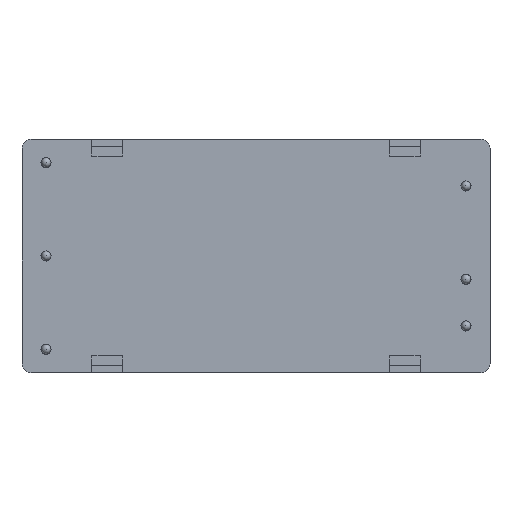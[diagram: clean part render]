
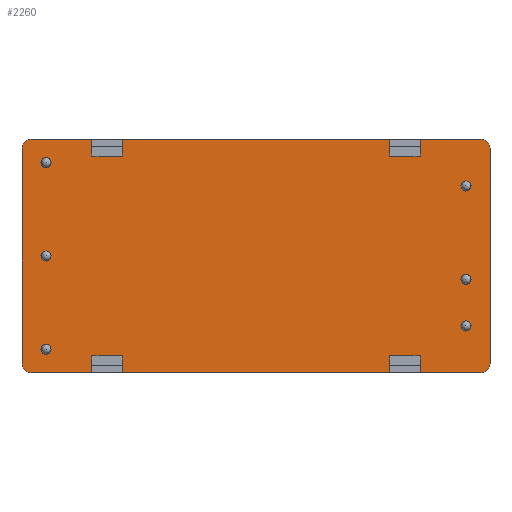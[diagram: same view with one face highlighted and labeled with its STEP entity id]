
A CAD part, top view. The second image highlights one B-rep face of the part: STEP entity #2260.
In plain terms, the highlighted planar face has unit normal (0, 0, 1).
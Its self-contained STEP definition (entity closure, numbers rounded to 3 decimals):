
#104=FACE_BOUND('',#481,.T.);
#105=FACE_BOUND('',#482,.T.);
#106=FACE_BOUND('',#483,.T.);
#107=FACE_BOUND('',#484,.T.);
#108=FACE_BOUND('',#485,.T.);
#109=FACE_BOUND('',#486,.T.);
#167=CIRCLE('',#2379,0.55);
#169=CIRCLE('',#2382,0.55);
#171=CIRCLE('',#2385,0.55);
#173=CIRCLE('',#2388,0.55);
#175=CIRCLE('',#2391,0.55);
#177=CIRCLE('',#2394,0.55);
#194=CIRCLE('',#2431,1.025);
#195=CIRCLE('',#2433,1.025);
#196=CIRCLE('',#2436,1.025);
#197=CIRCLE('',#2438,1.025);
#334=FACE_OUTER_BOUND('',#480,.T.);
#480=EDGE_LOOP('',(#1878,#1879,#1880,#1881,#1882,#1883,#1884,#1885,#1886,
#1887,#1888,#1889,#1890,#1891,#1892,#1893,#1894,#1895,#1896,#1897,#1898,
#1899,#1900,#1901));
#481=EDGE_LOOP('',(#1902));
#482=EDGE_LOOP('',(#1903));
#483=EDGE_LOOP('',(#1904));
#484=EDGE_LOOP('',(#1905));
#485=EDGE_LOOP('',(#1906));
#486=EDGE_LOOP('',(#1907));
#602=LINE('',#3364,#834);
#605=LINE('',#3369,#837);
#610=LINE('',#3378,#842);
#618=LINE('',#3396,#850);
#621=LINE('',#3401,#853);
#626=LINE('',#3410,#858);
#634=LINE('',#3427,#866);
#638=LINE('',#3435,#870);
#641=LINE('',#3440,#873);
#650=LINE('',#3459,#882);
#655=LINE('',#3469,#887);
#659=LINE('',#3475,#891);
#662=LINE('',#3481,#894);
#663=LINE('',#3484,#895);
#667=LINE('',#3490,#899);
#670=LINE('',#3496,#902);
#671=LINE('',#3499,#903);
#675=LINE('',#3505,#907);
#710=LINE('',#3651,#942);
#714=LINE('',#3662,#946);
#834=VECTOR('',#2653,3.3);
#837=VECTOR('',#2658,1.85);
#842=VECTOR('',#2665,1.85);
#850=VECTOR('',#2677,3.3);
#853=VECTOR('',#2682,1.85);
#858=VECTOR('',#2689,1.85);
#866=VECTOR('',#2701,1.85);
#870=VECTOR('',#2707,3.3);
#873=VECTOR('',#2712,1.85);
#882=VECTOR('',#2725,1.85);
#887=VECTOR('',#2732,1.85);
#891=VECTOR('',#2738,3.3);
#894=VECTOR('',#2743,6.59);
#895=VECTOR('',#2746,6.59);
#899=VECTOR('',#2752,29.12);
#902=VECTOR('',#2757,6.59);
#903=VECTOR('',#2760,6.59);
#907=VECTOR('',#2766,29.12);
#942=VECTOR('',#2931,23.4);
#946=VECTOR('',#2945,23.4);
#1050=VERTEX_POINT('',#3361);
#1051=VERTEX_POINT('',#3363);
#1052=VERTEX_POINT('',#3368);
#1055=VERTEX_POINT('',#3376);
#1062=VERTEX_POINT('',#3393);
#1063=VERTEX_POINT('',#3395);
#1064=VERTEX_POINT('',#3400);
#1067=VERTEX_POINT('',#3408);
#1073=VERTEX_POINT('',#3424);
#1074=VERTEX_POINT('',#3426);
#1077=VERTEX_POINT('',#3434);
#1078=VERTEX_POINT('',#3439);
#1085=VERTEX_POINT('',#3456);
#1086=VERTEX_POINT('',#3458);
#1089=VERTEX_POINT('',#3466);
#1090=VERTEX_POINT('',#3468);
#1093=VERTEX_POINT('',#3479);
#1094=VERTEX_POINT('',#3483);
#1097=VERTEX_POINT('',#3494);
#1098=VERTEX_POINT('',#3498);
#1113=VERTEX_POINT('',#3543);
#1115=VERTEX_POINT('',#3548);
#1117=VERTEX_POINT('',#3553);
#1119=VERTEX_POINT('',#3558);
#1121=VERTEX_POINT('',#3563);
#1123=VERTEX_POINT('',#3568);
#1144=VERTEX_POINT('',#3649);
#1145=VERTEX_POINT('',#3650);
#1146=VERTEX_POINT('',#3657);
#1147=VERTEX_POINT('',#3661);
#1262=EDGE_CURVE('',#1051,#1050,#602,.T.);
#1265=EDGE_CURVE('',#1052,#1051,#605,.T.);
#1270=EDGE_CURVE('',#1050,#1055,#610,.T.);
#1278=EDGE_CURVE('',#1063,#1062,#618,.T.);
#1281=EDGE_CURVE('',#1064,#1063,#621,.T.);
#1286=EDGE_CURVE('',#1062,#1067,#626,.T.);
#1294=EDGE_CURVE('',#1074,#1073,#634,.T.);
#1298=EDGE_CURVE('',#1077,#1074,#638,.T.);
#1301=EDGE_CURVE('',#1078,#1077,#641,.T.);
#1310=EDGE_CURVE('',#1086,#1085,#650,.T.);
#1315=EDGE_CURVE('',#1090,#1089,#655,.T.);
#1319=EDGE_CURVE('',#1085,#1090,#659,.T.);
#1322=EDGE_CURVE('',#1093,#1067,#662,.T.);
#1323=EDGE_CURVE('',#1052,#1094,#663,.T.);
#1327=EDGE_CURVE('',#1064,#1055,#667,.T.);
#1330=EDGE_CURVE('',#1097,#1089,#670,.T.);
#1331=EDGE_CURVE('',#1078,#1098,#671,.T.);
#1335=EDGE_CURVE('',#1086,#1073,#675,.T.);
#1355=EDGE_CURVE('',#1113,#1113,#167,.T.);
#1357=EDGE_CURVE('',#1115,#1115,#169,.T.);
#1359=EDGE_CURVE('',#1117,#1117,#171,.T.);
#1361=EDGE_CURVE('',#1119,#1119,#173,.T.);
#1363=EDGE_CURVE('',#1121,#1121,#175,.T.);
#1365=EDGE_CURVE('',#1123,#1123,#177,.T.);
#1406=EDGE_CURVE('',#1144,#1145,#710,.T.);
#1409=EDGE_CURVE('',#1145,#1093,#194,.T.);
#1410=EDGE_CURVE('',#1094,#1146,#195,.T.);
#1412=EDGE_CURVE('',#1146,#1147,#714,.T.);
#1414=EDGE_CURVE('',#1147,#1097,#196,.T.);
#1415=EDGE_CURVE('',#1098,#1144,#197,.T.);
#1878=ORIENTED_EDGE('',*,*,#1270,.T.);
#1879=ORIENTED_EDGE('',*,*,#1327,.F.);
#1880=ORIENTED_EDGE('',*,*,#1281,.T.);
#1881=ORIENTED_EDGE('',*,*,#1278,.T.);
#1882=ORIENTED_EDGE('',*,*,#1286,.T.);
#1883=ORIENTED_EDGE('',*,*,#1322,.F.);
#1884=ORIENTED_EDGE('',*,*,#1409,.F.);
#1885=ORIENTED_EDGE('',*,*,#1406,.F.);
#1886=ORIENTED_EDGE('',*,*,#1415,.F.);
#1887=ORIENTED_EDGE('',*,*,#1331,.F.);
#1888=ORIENTED_EDGE('',*,*,#1301,.T.);
#1889=ORIENTED_EDGE('',*,*,#1298,.T.);
#1890=ORIENTED_EDGE('',*,*,#1294,.T.);
#1891=ORIENTED_EDGE('',*,*,#1335,.F.);
#1892=ORIENTED_EDGE('',*,*,#1310,.T.);
#1893=ORIENTED_EDGE('',*,*,#1319,.T.);
#1894=ORIENTED_EDGE('',*,*,#1315,.T.);
#1895=ORIENTED_EDGE('',*,*,#1330,.F.);
#1896=ORIENTED_EDGE('',*,*,#1414,.F.);
#1897=ORIENTED_EDGE('',*,*,#1412,.F.);
#1898=ORIENTED_EDGE('',*,*,#1410,.F.);
#1899=ORIENTED_EDGE('',*,*,#1323,.F.);
#1900=ORIENTED_EDGE('',*,*,#1265,.T.);
#1901=ORIENTED_EDGE('',*,*,#1262,.T.);
#1902=ORIENTED_EDGE('',*,*,#1355,.T.);
#1903=ORIENTED_EDGE('',*,*,#1357,.T.);
#1904=ORIENTED_EDGE('',*,*,#1359,.T.);
#1905=ORIENTED_EDGE('',*,*,#1361,.T.);
#1906=ORIENTED_EDGE('',*,*,#1363,.T.);
#1907=ORIENTED_EDGE('',*,*,#1365,.T.);
#2162=PLANE('',#2439);
#2260=ADVANCED_FACE('',(#334,#104,#105,#106,#107,#108,#109),#2162,.T.);
#2379=AXIS2_PLACEMENT_3D('',#3544,#2805,#2806);
#2382=AXIS2_PLACEMENT_3D('',#3549,#2811,#2812);
#2385=AXIS2_PLACEMENT_3D('',#3554,#2817,#2818);
#2388=AXIS2_PLACEMENT_3D('',#3559,#2823,#2824);
#2391=AXIS2_PLACEMENT_3D('',#3564,#2829,#2830);
#2394=AXIS2_PLACEMENT_3D('',#3569,#2835,#2836);
#2431=AXIS2_PLACEMENT_3D('',#3655,#2936,#2937);
#2433=AXIS2_PLACEMENT_3D('',#3658,#2940,#2941);
#2436=AXIS2_PLACEMENT_3D('',#3665,#2949,#2950);
#2438=AXIS2_PLACEMENT_3D('',#3667,#2953,#2954);
#2439=AXIS2_PLACEMENT_3D('',#3668,#2955,#2956);
#2653=DIRECTION('',(1.,0.,0.));
#2658=DIRECTION('',(0.,1.,0.));
#2665=DIRECTION('',(0.,-1.,0.));
#2677=DIRECTION('',(1.,0.,0.));
#2682=DIRECTION('',(0.,1.,0.));
#2689=DIRECTION('',(0.,-1.,0.));
#2701=DIRECTION('',(0.,1.,0.));
#2707=DIRECTION('',(-1.,0.,0.));
#2712=DIRECTION('',(0.,-1.,0.));
#2725=DIRECTION('',(0.,-1.,0.));
#2732=DIRECTION('',(0.,1.,0.));
#2738=DIRECTION('',(-1.,0.,0.));
#2743=DIRECTION('',(-1.,0.,0.));
#2746=DIRECTION('',(-1.,0.,0.));
#2752=DIRECTION('',(-1.,0.,0.));
#2757=DIRECTION('',(1.,0.,0.));
#2760=DIRECTION('',(1.,0.,0.));
#2766=DIRECTION('',(1.,0.,0.));
#2805=DIRECTION('center_axis',(0.,0.,
-1.));
#2806=DIRECTION('ref_axis',(-1.,0.,0.));
#2811=DIRECTION('center_axis',(0.,0.,
-1.));
#2812=DIRECTION('ref_axis',(-1.,0.,0.));
#2817=DIRECTION('center_axis',(0.,0.,
-1.));
#2818=DIRECTION('ref_axis',(-1.,0.,0.));
#2823=DIRECTION('center_axis',(0.,0.,
-1.));
#2824=DIRECTION('ref_axis',(-1.,0.,0.));
#2829=DIRECTION('center_axis',(0.,0.,
-1.));
#2830=DIRECTION('ref_axis',(-1.,0.,0.));
#2835=DIRECTION('center_axis',(0.,0.,
-1.));
#2836=DIRECTION('ref_axis',(-1.,0.,0.));
#2931=DIRECTION('',(0.,-1.,0.));
#2936=DIRECTION('center_axis',(0.,0.,-1.));
#2937=DIRECTION('ref_axis',(0.,1.,0.));
#2940=DIRECTION('center_axis',(0.,0.,-1.));
#2941=DIRECTION('ref_axis',(1.,0.,0.));
#2945=DIRECTION('',(0.,1.,0.));
#2949=DIRECTION('center_axis',(0.,0.,-1.));
#2950=DIRECTION('ref_axis',(0.,-1.,0.));
#2953=DIRECTION('center_axis',(0.,0.,-1.));
#2954=DIRECTION('ref_axis',(-1.,0.,0.));
#2955=DIRECTION('center_axis',(0.,0.,
1.));
#2956=DIRECTION('ref_axis',(1.,0.,0.));
#3361=CARTESIAN_POINT('',(-14.56,-10.875,11.));
#3363=CARTESIAN_POINT('',(-17.86,-10.875,11.));
#3364=CARTESIAN_POINT('',(-7.28,-10.875,11.));
#3368=CARTESIAN_POINT('',(-17.86,-12.725,11.));
#3369=CARTESIAN_POINT('',(-17.86,-5.438,11.));
#3376=CARTESIAN_POINT('',(-14.56,-12.725,11.));
#3378=CARTESIAN_POINT('',(-14.56,-6.362,11.));
#3393=CARTESIAN_POINT('',(17.86,-10.875,11.));
#3395=CARTESIAN_POINT('',(14.56,-10.875,11.));
#3396=CARTESIAN_POINT('',(8.93,-10.875,11.));
#3400=CARTESIAN_POINT('',(14.56,-12.725,11.));
#3401=CARTESIAN_POINT('',(14.56,-5.437,11.));
#3408=CARTESIAN_POINT('',(17.86,-12.725,11.));
#3410=CARTESIAN_POINT('',(17.86,-6.363,11.));
#3424=CARTESIAN_POINT('',(14.56,12.725,11.));
#3426=CARTESIAN_POINT('',(14.56,10.875,11.));
#3427=CARTESIAN_POINT('',(14.56,6.362,11.));
#3434=CARTESIAN_POINT('',(17.86,10.875,11.));
#3435=CARTESIAN_POINT('',(7.28,10.875,11.));
#3439=CARTESIAN_POINT('',(17.86,12.725,11.));
#3440=CARTESIAN_POINT('',(17.86,5.438,11.));
#3456=CARTESIAN_POINT('',(-14.56,10.875,11.));
#3458=CARTESIAN_POINT('',(-14.56,12.725,11.));
#3459=CARTESIAN_POINT('',(-14.56,5.437,11.));
#3466=CARTESIAN_POINT('',(-17.86,12.725,11.));
#3468=CARTESIAN_POINT('',(-17.86,10.875,11.));
#3469=CARTESIAN_POINT('',(-17.86,6.363,11.));
#3475=CARTESIAN_POINT('',(-8.93,10.875,11.));
#3479=CARTESIAN_POINT('',(24.45,-12.725,11.));
#3481=CARTESIAN_POINT('',(24.45,-12.725,11.));
#3483=CARTESIAN_POINT('',(-24.45,-12.725,11.));
#3484=CARTESIAN_POINT('',(24.45,-12.725,11.));
#3490=CARTESIAN_POINT('',(24.45,-12.725,11.));
#3494=CARTESIAN_POINT('',(-24.45,12.725,11.));
#3496=CARTESIAN_POINT('',(-24.45,12.725,11.));
#3498=CARTESIAN_POINT('',(24.45,12.725,11.));
#3499=CARTESIAN_POINT('',(-24.45,12.725,11.));
#3505=CARTESIAN_POINT('',(-24.45,12.725,11.));
#3543=CARTESIAN_POINT('',(-22.31,0.,11.));
#3544=CARTESIAN_POINT('Origin',(-22.86,0.,11.));
#3548=CARTESIAN_POINT('',(23.41,-7.62,11.));
#3549=CARTESIAN_POINT('Origin',(22.86,-7.62,11.));
#3553=CARTESIAN_POINT('',(23.41,7.62,11.));
#3554=CARTESIAN_POINT('Origin',(22.86,7.62,11.));
#3558=CARTESIAN_POINT('',(23.41,-2.54,11.));
#3559=CARTESIAN_POINT('Origin',(22.86,-2.54,11.));
#3563=CARTESIAN_POINT('',(-22.31,10.16,11.));
#3564=CARTESIAN_POINT('Origin',(-22.86,10.16,11.));
#3568=CARTESIAN_POINT('',(-22.31,-10.16,11.));
#3569=CARTESIAN_POINT('Origin',(-22.86,-10.16,11.));
#3649=CARTESIAN_POINT('',(25.475,11.7,11.));
#3650=CARTESIAN_POINT('',(25.475,-11.7,11.));
#3651=CARTESIAN_POINT('',(25.475,11.7,11.));
#3655=CARTESIAN_POINT('Origin',(24.45,-11.7,11.));
#3657=CARTESIAN_POINT('',(-25.475,-11.7,11.));
#3658=CARTESIAN_POINT('Origin',(-24.45,-11.7,11.));
#3661=CARTESIAN_POINT('',(-25.475,11.7,11.));
#3662=CARTESIAN_POINT('',(-25.475,-11.7,11.));
#3665=CARTESIAN_POINT('Origin',(-24.45,11.7,11.));
#3667=CARTESIAN_POINT('Origin',(24.45,11.7,11.));
#3668=CARTESIAN_POINT('Origin',(0.,0.,11.));
